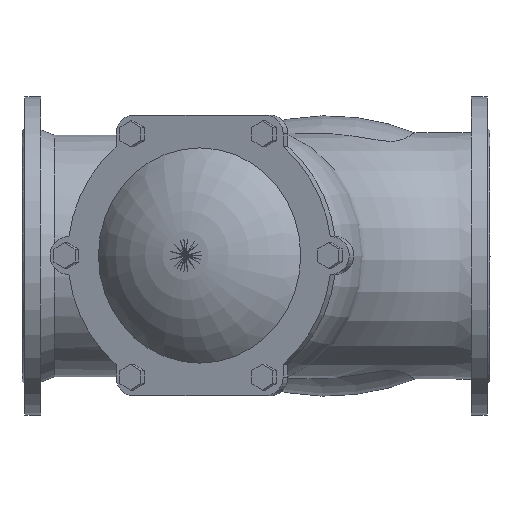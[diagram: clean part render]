
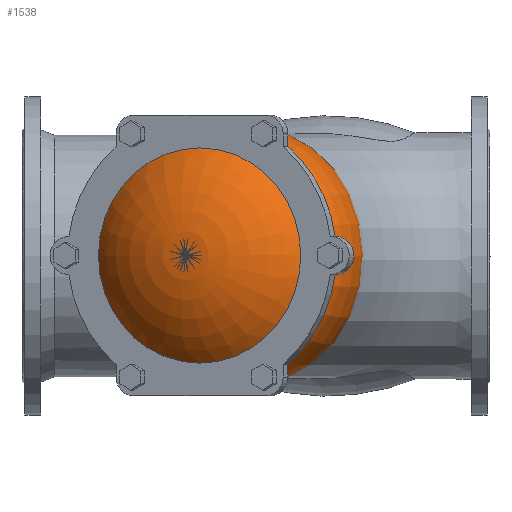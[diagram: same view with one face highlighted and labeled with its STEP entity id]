
A CAD part, top view. The second image highlights one B-rep face of the part: STEP entity #1538.
In plain terms, the highlighted toroidal (fillet/blend) face has major radius 7.686 mm and minor radius 150 mm.
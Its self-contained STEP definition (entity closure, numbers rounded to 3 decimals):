
#1538=ADVANCED_FACE('',(#5694),#5696,.T.);
#5694=FACE_OUTER_BOUND('',#5695,.T.);
#5695=EDGE_LOOP('',(#6978));
#5696=DEGENERATE_TOROIDAL_SURFACE('',#5697,7.686,150.,.T.);
#5697=AXIS2_PLACEMENT_3D('',#5698,#5699,#5700);
#5698=CARTESIAN_POINT('',(-15.434,0.,190.714));
#5699=DIRECTION('',(0.342,0.,-0.94));
#5700=DIRECTION('',(-0.94,0.,-0.342));
#6978=ORIENTED_EDGE('',*,*,#7405,.T.);
#7405=EDGE_CURVE('',#8115,#8115,#8116,.F.);
#8115=VERTEX_POINT('',#11439);
#8116=CIRCLE('',#11440,115.);
#11439=CARTESIAN_POINT('',(-159.343,0.,249.864));
#11440=AXIS2_PLACEMENT_3D('',#11441,#11442,#11443);
#11441=CARTESIAN_POINT('',(-51.278,0.,289.197));
#11442=DIRECTION('',(0.342,0.,-0.94));
#11443=DIRECTION('',(-0.94,0.,-0.342));
